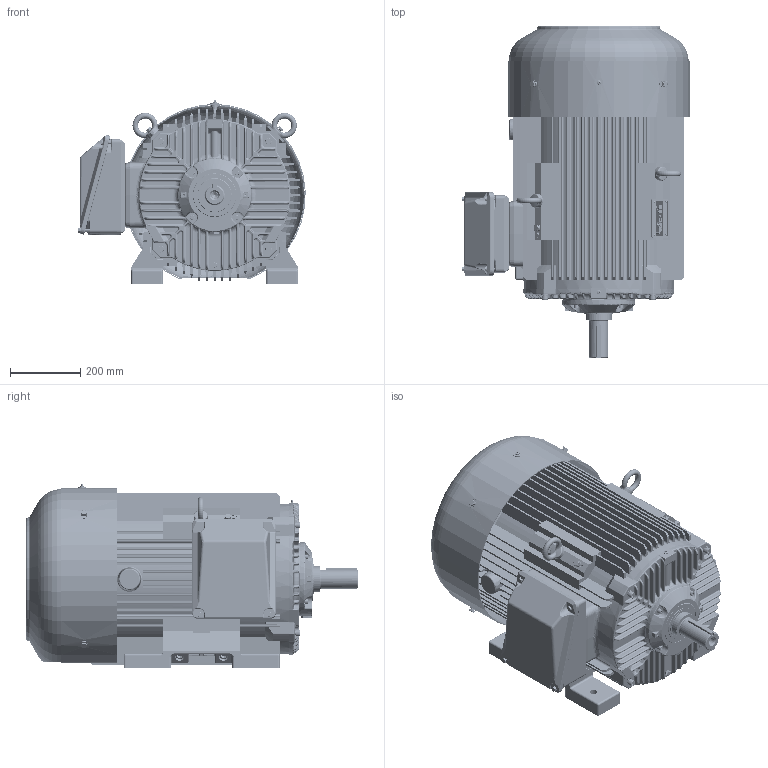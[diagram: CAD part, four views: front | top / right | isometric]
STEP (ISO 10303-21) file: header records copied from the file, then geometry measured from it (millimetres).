
FILE_DESCRIPTION(/* description */ ('Unknown','CAx-IF Rec.Pracs.---Representation and Presentation of Product Manufacturing Information (PMI)---4.0---2014-10-13','CAx-IF Rec.Pracs.---3D Tessellated Geometry---0.4---2014-09-14','2;1'),/* implementation_level */ '2;1');
FILE_NAME(/* name */ 'Silnik SIE400TS2',/* time_stamp */ '2024-07-08T08:53:48+02:00',/* author */ ('Unknown'),/* organization */ ('Unknown'),/* preprocessor_version */ 'ST-DEVELOPER v16.7',/* originating_system */ 'DEX',/* authorisation */ $);
FILE_SCHEMA (('AP242_MANAGED_MODEL_BASED_3D_ENGINEERING_MIM_LF { 1 0 10303 442 20130219 1 4 }'));
Length unit declared in the file: millimetre
Products named in the file (1): Silnik  SIE400TS2
Bounding box: 648.98 x 947.48 x 526 mm (x, y, z)
Volume: 84952670.4 mm3; surface area: 7626044.6 mm2
Topology: 11 solids, 70 shells, 11406 faces, 29392 edges, 18169 vertices
Faces by surface type: plane 5759, cylinder 2578, bspline 1355, torus 1102, cone 376, sphere 236
Full cylindrical faces by diameter (mm): 1.6 x2, 2.459 x2, 2.5 x4, 3 x17, 3.4 x4, 4.917 x2, 5 x4, 6 x5, 6.2 x14, 6.3 x1, 6.35 x3, 6.4 x2, 6.466 x8, 6.647 x8, 8 x30, 8.376 x4, 8.5 x5, 8.917 x1, 9 x12, 9.853 x8, 10 x23, 10.106 x12, 10.5 x5, 11.63 x5, 12 x20, 13 x8, 13.546 x4, 13.835 x4, 14 x9, 14.63 x9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
Entity records: 390800 total; most frequent: CARTESIAN_POINT 126562, ORIENTED_EDGE 55956, DIRECTION 50457, EDGE_CURVE 27978, VERTEX_POINT 17754, AXIS2_PLACEMENT_3D 17145, LINE 16167, VECTOR 16167
